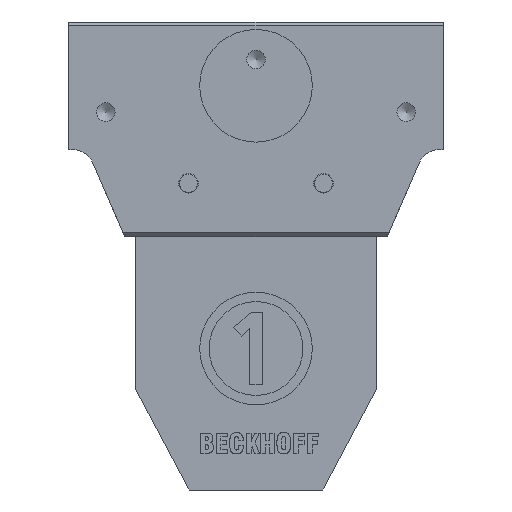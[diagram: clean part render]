
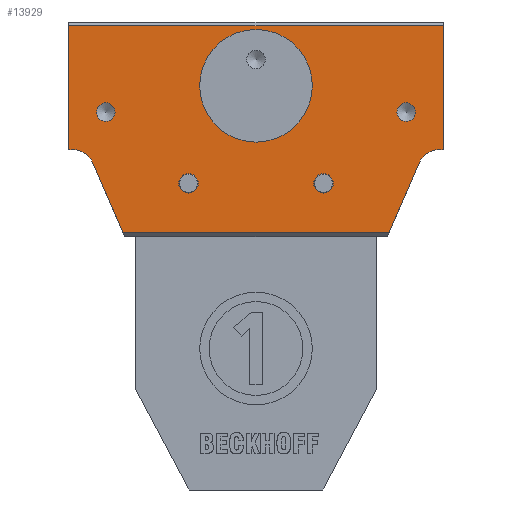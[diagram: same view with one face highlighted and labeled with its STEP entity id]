
A CAD part, front view. The second image highlights one B-rep face of the part: STEP entity #13929.
In plain terms, the highlighted planar face has unit normal (0, -1, 0).
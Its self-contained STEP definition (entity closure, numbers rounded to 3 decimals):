
#424=FACE_BOUND('',#1643,.T.);
#425=FACE_BOUND('',#1644,.T.);
#426=FACE_BOUND('',#1645,.T.);
#427=FACE_BOUND('',#1646,.T.);
#428=FACE_BOUND('',#1647,.T.);
#859=FACE_OUTER_BOUND('',#1642,.T.);
#1642=EDGE_LOOP('',(#10394,#10395,#10396,#10397,#10398,#10399,#10400,#10401,
#10402,#10403));
#1643=EDGE_LOOP('',(#10404));
#1644=EDGE_LOOP('',(#10405));
#1645=EDGE_LOOP('',(#10406));
#1646=EDGE_LOOP('',(#10407,#10408));
#1647=EDGE_LOOP('',(#10409,#10410));
#2195=CIRCLE('',#14830,3.);
#2196=CIRCLE('',#14831,3.);
#2197=CIRCLE('',#14832,1.293);
#2198=CIRCLE('',#14833,1.293);
#2199=CIRCLE('',#14834,7.5);
#2200=CIRCLE('',#14835,1.23);
#2201=CIRCLE('',#14836,1.23);
#2202=CIRCLE('',#14837,1.23);
#2203=CIRCLE('',#14838,1.23);
#3236=LINE('',#21626,#4676);
#3237=LINE('',#21628,#4677);
#3238=LINE('',#21630,#4678);
#3239=LINE('',#21634,#4679);
#3240=LINE('',#21636,#4680);
#3241=LINE('',#21638,#4681);
#3242=LINE('',#21642,#4682);
#3243=LINE('',#21643,#4683);
#4676=VECTOR('',#17268,10.);
#4677=VECTOR('',#17269,10.);
#4678=VECTOR('',#17270,10.);
#4679=VECTOR('',#17273,10.);
#4680=VECTOR('',#17274,10.);
#4681=VECTOR('',#17275,10.);
#4682=VECTOR('',#17278,10.);
#4683=VECTOR('',#17279,10.);
#5968=VERTEX_POINT('',#21624);
#5969=VERTEX_POINT('',#21625);
#5970=VERTEX_POINT('',#21627);
#5971=VERTEX_POINT('',#21629);
#5972=VERTEX_POINT('',#21631);
#5973=VERTEX_POINT('',#21633);
#5974=VERTEX_POINT('',#21635);
#5975=VERTEX_POINT('',#21637);
#5976=VERTEX_POINT('',#21639);
#5977=VERTEX_POINT('',#21641);
#5978=VERTEX_POINT('',#21644);
#5979=VERTEX_POINT('',#21646);
#5980=VERTEX_POINT('',#21648);
#5981=VERTEX_POINT('',#21650);
#5982=VERTEX_POINT('',#21651);
#5983=VERTEX_POINT('',#21654);
#5984=VERTEX_POINT('',#21655);
#7545=EDGE_CURVE('',#5968,#5969,#3236,.T.);
#7546=EDGE_CURVE('',#5968,#5970,#3237,.T.);
#7547=EDGE_CURVE('',#5970,#5971,#3238,.T.);
#7548=EDGE_CURVE('',#5972,#5971,#2195,.T.);
#7549=EDGE_CURVE('',#5972,#5973,#3239,.T.);
#7550=EDGE_CURVE('',#5974,#5973,#3240,.T.);
#7551=EDGE_CURVE('',#5974,#5975,#3241,.T.);
#7552=EDGE_CURVE('',#5976,#5975,#2196,.T.);
#7553=EDGE_CURVE('',#5976,#5977,#3242,.T.);
#7554=EDGE_CURVE('',#5969,#5977,#3243,.T.);
#7555=EDGE_CURVE('',#5978,#5978,#2197,.T.);
#7556=EDGE_CURVE('',#5979,#5979,#2198,.T.);
#7557=EDGE_CURVE('',#5980,#5980,#2199,.T.);
#7558=EDGE_CURVE('',#5981,#5982,#2200,.T.);
#7559=EDGE_CURVE('',#5982,#5981,#2201,.T.);
#7560=EDGE_CURVE('',#5983,#5984,#2202,.T.);
#7561=EDGE_CURVE('',#5984,#5983,#2203,.T.);
#10394=ORIENTED_EDGE('',*,*,#7545,.F.);
#10395=ORIENTED_EDGE('',*,*,#7546,.T.);
#10396=ORIENTED_EDGE('',*,*,#7547,.T.);
#10397=ORIENTED_EDGE('',*,*,#7548,.F.);
#10398=ORIENTED_EDGE('',*,*,#7549,.T.);
#10399=ORIENTED_EDGE('',*,*,#7550,.F.);
#10400=ORIENTED_EDGE('',*,*,#7551,.T.);
#10401=ORIENTED_EDGE('',*,*,#7552,.F.);
#10402=ORIENTED_EDGE('',*,*,#7553,.T.);
#10403=ORIENTED_EDGE('',*,*,#7554,.F.);
#10404=ORIENTED_EDGE('',*,*,#7555,.F.);
#10405=ORIENTED_EDGE('',*,*,#7556,.F.);
#10406=ORIENTED_EDGE('',*,*,#7557,.T.);
#10407=ORIENTED_EDGE('',*,*,#7558,.T.);
#10408=ORIENTED_EDGE('',*,*,#7559,.T.);
#10409=ORIENTED_EDGE('',*,*,#7560,.T.);
#10410=ORIENTED_EDGE('',*,*,#7561,.T.);
#12577=PLANE('',#14829);
#13929=ADVANCED_FACE('',(#859,#424,#425,#426,#427,#428),#12577,.T.);
#14829=AXIS2_PLACEMENT_3D('',#21623,#17266,#17267);
#14830=AXIS2_PLACEMENT_3D('',#21632,#17271,#17272);
#14831=AXIS2_PLACEMENT_3D('',#21640,#17276,#17277);
#14832=AXIS2_PLACEMENT_3D('',#21645,#17280,#17281);
#14833=AXIS2_PLACEMENT_3D('',#21647,#17282,#17283);
#14834=AXIS2_PLACEMENT_3D('',#21649,#17284,#17285);
#14835=AXIS2_PLACEMENT_3D('',#21652,#17286,#17287);
#14836=AXIS2_PLACEMENT_3D('',#21653,#17288,#17289);
#14837=AXIS2_PLACEMENT_3D('',#21656,#17290,#17291);
#14838=AXIS2_PLACEMENT_3D('',#21657,#17292,#17293);
#17266=DIRECTION('center_axis',(0.,-1.,0.));
#17267=DIRECTION('ref_axis',(0.,0.,-1.));
#17268=DIRECTION('',(1.,0.,0.));
#17269=DIRECTION('',(0.,0.,-1.));
#17270=DIRECTION('',(1.,0.,0.));
#17271=DIRECTION('center_axis',(0.,-1.,0.));
#17272=DIRECTION('ref_axis',(0.55,0.,0.835));
#17273=DIRECTION('',(0.396,0.,-0.918));
#17274=DIRECTION('',(-1.,0.,0.));
#17275=DIRECTION('',(0.396,0.,0.918));
#17276=DIRECTION('center_axis',(0.,-1.,0.));
#17277=DIRECTION('ref_axis',(-0.55,0.,0.835));
#17278=DIRECTION('',(1.,0.,0.));
#17279=DIRECTION('',(0.,0.,-1.));
#17280=DIRECTION('center_axis',(0.,-1.,0.));
#17281=DIRECTION('ref_axis',(0.499,0.,-0.867));
#17282=DIRECTION('center_axis',(0.,-1.,0.));
#17283=DIRECTION('ref_axis',(-1.,0.,0.));
#17284=DIRECTION('center_axis',(0.,1.,0.));
#17285=DIRECTION('ref_axis',(-1.,0.,0.));
#17286=DIRECTION('center_axis',(0.,1.,0.));
#17287=DIRECTION('ref_axis',(1.,0.,0.));
#17288=DIRECTION('center_axis',(0.,1.,0.));
#17289=DIRECTION('ref_axis',(1.,0.,0.));
#17290=DIRECTION('center_axis',(0.,1.,0.));
#17291=DIRECTION('ref_axis',(1.,0.,0.));
#17292=DIRECTION('center_axis',(0.,1.,0.));
#17293=DIRECTION('ref_axis',(1.,0.,0.));
#21623=CARTESIAN_POINT('Origin',(24.95,0.,0.));
#21624=CARTESIAN_POINT('',(-24.95,0.,16.5));
#21625=CARTESIAN_POINT('',(24.95,0.,16.5));
#21626=CARTESIAN_POINT('',(12.475,0.,16.5));
#21627=CARTESIAN_POINT('',(-24.95,0.,0.));
#21628=CARTESIAN_POINT('',(-24.95,0.,0.));
#21629=CARTESIAN_POINT('',(-24.474,0.,0.));
#21630=CARTESIAN_POINT('',(0.,0.,0.));
#21631=CARTESIAN_POINT('',(-21.719,0.,-1.813));
#21632=CARTESIAN_POINT('Origin',(-24.474,0.,
-3.));
#21633=CARTESIAN_POINT('',(-17.716,0.,-11.1));
#21634=CARTESIAN_POINT('',(-18.783,0.,-8.624));
#21635=CARTESIAN_POINT('',(17.716,0.,-11.1));
#21636=CARTESIAN_POINT('',(12.475,0.,-11.1));
#21637=CARTESIAN_POINT('',(21.719,0.,-1.813));
#21638=CARTESIAN_POINT('',(20.192,0.,-5.355));
#21639=CARTESIAN_POINT('',(24.474,0.,0.));
#21640=CARTESIAN_POINT('Origin',(24.474,0.,
-3.));
#21641=CARTESIAN_POINT('',(24.95,0.,0.));
#21642=CARTESIAN_POINT('',(23.725,0.,0.));
#21643=CARTESIAN_POINT('',(24.95,0.,0.));
#21644=CARTESIAN_POINT('',(8.355,0.,-3.379));
#21645=CARTESIAN_POINT('Origin',(9.,0.,-4.5));
#21646=CARTESIAN_POINT('',(-7.707,0.,-4.5));
#21647=CARTESIAN_POINT('Origin',(-9.,0.,
-4.5));
#21648=CARTESIAN_POINT('',(7.5,0.,8.5));
#21649=CARTESIAN_POINT('Origin',(0.,0.,
8.5));
#21650=CARTESIAN_POINT('',(21.23,0.,5.));
#21651=CARTESIAN_POINT('',(18.771,0.,5.));
#21652=CARTESIAN_POINT('Origin',(20.,0.,5.));
#21653=CARTESIAN_POINT('Origin',(20.,0.,5.));
#21654=CARTESIAN_POINT('',(-18.771,0.,5.));
#21655=CARTESIAN_POINT('',(-21.23,0.,5.));
#21656=CARTESIAN_POINT('Origin',(-20.,0.,5.));
#21657=CARTESIAN_POINT('Origin',(-20.,0.,5.));
